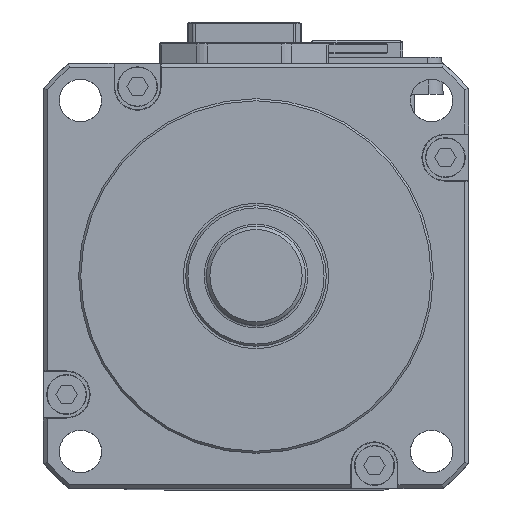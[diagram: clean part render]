
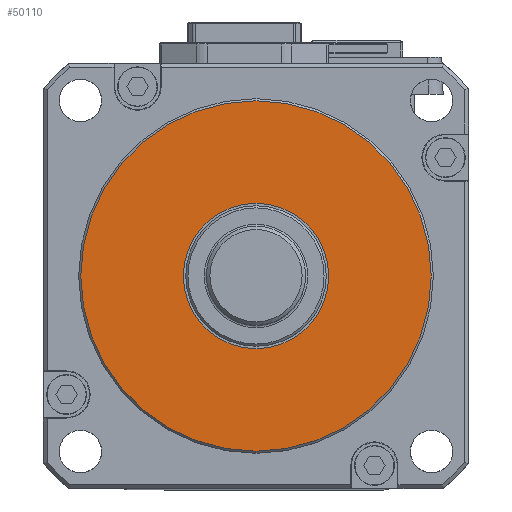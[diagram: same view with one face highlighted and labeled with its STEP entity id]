
A CAD part, top view. The second image highlights one B-rep face of the part: STEP entity #50110.
In plain terms, the highlighted planar face has unit normal (0, 0, 1).
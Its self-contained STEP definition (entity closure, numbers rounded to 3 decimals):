
#1954 = EDGE_CURVE ( 'NONE', #30447, #30447, #21976, .T. ) ;
#4135 = AXIS2_PLACEMENT_3D ( 'NONE', #4415, #38554, #32908 ) ;
#4415 = CARTESIAN_POINT ( 'NONE',  ( 0., 0., 10. ) ) ;
#7377 = DIRECTION ( 'NONE',  ( 0., 0., 1. ) ) ;
#10258 = EDGE_CURVE ( 'NONE', #14862, #14862, #51636, .T. ) ;
#14862 = VERTEX_POINT ( 'NONE', #31638 ) ;
#21465 = AXIS2_PLACEMENT_3D ( 'NONE', #37215, #30963, #63753 ) ;
#21976 = CIRCLE ( 'NONE', #4135, 24.7 ) ;
#23121 = CARTESIAN_POINT ( 'NONE',  ( 0., 0., 10. ) ) ;
#26651 = ORIENTED_EDGE ( 'NONE', *, *, #10258, .F. ) ;
#28342 = EDGE_LOOP ( 'NONE', ( #26651 ) ) ;
#30447 = VERTEX_POINT ( 'NONE', #36380 ) ;
#30963 = DIRECTION ( 'NONE',  ( 0., 0., 1. ) ) ;
#31638 = CARTESIAN_POINT ( 'NONE',  ( 10.25, 0., 10. ) ) ;
#32908 = DIRECTION ( 'NONE',  ( 1., 0., 0. ) ) ;
#36191 = PLANE ( 'NONE',  #21465 ) ;
#36380 = CARTESIAN_POINT ( 'NONE',  ( 24.7, 0., 10. ) ) ;
#37215 = CARTESIAN_POINT ( 'NONE',  ( 0., 0., 10. ) ) ;
#38554 = DIRECTION ( 'NONE',  ( 0., 0., 1. ) ) ;
#50110 = ADVANCED_FACE ( 'NONE', ( #56361, #68331 ), #36191, .T. ) ;
#51636 = CIRCLE ( 'NONE', #52799, 10.25 ) ;
#52799 = AXIS2_PLACEMENT_3D ( 'NONE', #23121, #7377, #54087 ) ;
#54087 = DIRECTION ( 'NONE',  ( 1., 0., 0. ) ) ;
#54560 = ORIENTED_EDGE ( 'NONE', *, *, #1954, .T. ) ;
#55149 = EDGE_LOOP ( 'NONE', ( #54560 ) ) ;
#56361 = FACE_OUTER_BOUND ( 'NONE', #55149, .T. ) ;
#63753 = DIRECTION ( 'NONE',  ( 1., 0., 0. ) ) ;
#68331 = FACE_BOUND ( 'NONE', #28342, .T. ) ;
